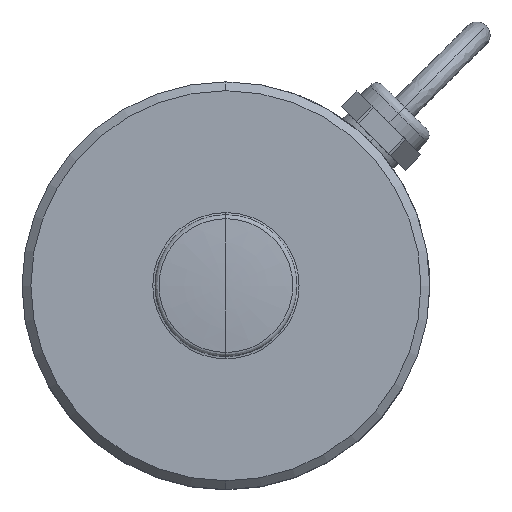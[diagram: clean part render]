
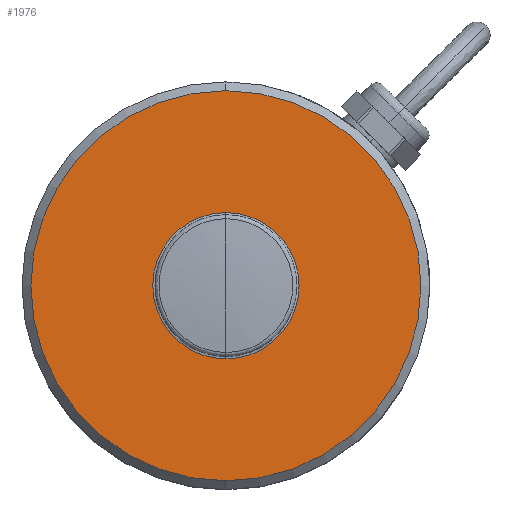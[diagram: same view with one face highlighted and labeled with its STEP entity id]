
A CAD part, top view. The second image highlights one B-rep face of the part: STEP entity #1976.
In plain terms, the highlighted free-form (B-spline) face has degree [1, 1] with [2, 2] control points.
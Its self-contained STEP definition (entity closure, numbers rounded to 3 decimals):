
#357=CARTESIAN_POINT('',(0.,0.,20.));
#358=DIRECTION('',(0.,0.,1.));
#359=DIRECTION('',(0.,1.,0.));
#360=AXIS2_PLACEMENT_3D('',#357,#358,#359);
#362=CARTESIAN_POINT('',(0.,0.,20.));
#363=DIRECTION('',(0.,0.,1.));
#364=DIRECTION('',(0.,-1.,0.));
#365=AXIS2_PLACEMENT_3D('',#362,#363,#364);
#381=CARTESIAN_POINT('',(0.,0.,20.));
#382=DIRECTION('',(0.,0.,1.));
#383=DIRECTION('',(0.,1.,0.));
#384=AXIS2_PLACEMENT_3D('',#381,#382,#383);
#386=CARTESIAN_POINT('',(0.,0.,20.));
#387=DIRECTION('',(0.,0.,-1.));
#388=DIRECTION('',(0.,1.,0.));
#389=AXIS2_PLACEMENT_3D('',#386,#387,#388);
#1141=CARTESIAN_POINT('',(0.,8.25,20.));
#1142=VERTEX_POINT('',#1141);
#1143=CARTESIAN_POINT('',(0.,-8.25,20.));
#1144=VERTEX_POINT('',#1143);
#1155=CARTESIAN_POINT('',(0.,22.,20.));
#1156=CARTESIAN_POINT('',(0.,-22.,20.));
#1157=VERTEX_POINT('',#1155);
#1158=VERTEX_POINT('',#1156);
#1960=CARTESIAN_POINT('',(22.884,22.88,20.));
#1961=CARTESIAN_POINT('',(-22.884,22.88,20.));
#1962=CARTESIAN_POINT('',(22.884,-22.88,20.));
#1963=CARTESIAN_POINT('',(-22.884,-22.88,20.));
#1964=B_SPLINE_SURFACE_WITH_KNOTS('',1,1,((#1960,#1961),(#1962,#1963)),
.UNSPECIFIED.,.F.,.F.,.F.,(2,2),(2,2),(-22.88,22.88),(-22.884,
22.884),.UNSPECIFIED.);
#1965=ORIENTED_EDGE('',*,*,#1950,.F.);
#1967=ORIENTED_EDGE('',*,*,#1966,.F.);
#1968=EDGE_LOOP('',(#1965,#1967));
#1969=FACE_OUTER_BOUND('',#1968,.F.);
#1971=ORIENTED_EDGE('',*,*,#1970,.T.);
#1973=ORIENTED_EDGE('',*,*,#1972,.F.);
#1974=EDGE_LOOP('',(#1971,#1973));
#1975=FACE_BOUND('',#1974,.F.);
#1976=ADVANCED_FACE('',(#1969,#1975),#1964,.F.);
#361=CIRCLE('',#360,22.);
#366=CIRCLE('',#365,22.);
#385=CIRCLE('',#384,8.25);
#390=CIRCLE('',#389,8.25);
#1950=EDGE_CURVE('',#1157,#1158,#361,.T.);
#1966=EDGE_CURVE('',#1158,#1157,#366,.T.);
#1970=EDGE_CURVE('',#1142,#1144,#385,.T.);
#1972=EDGE_CURVE('',#1142,#1144,#390,.T.);
